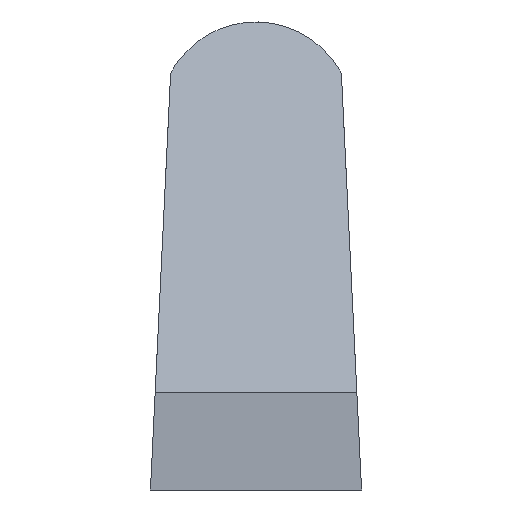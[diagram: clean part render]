
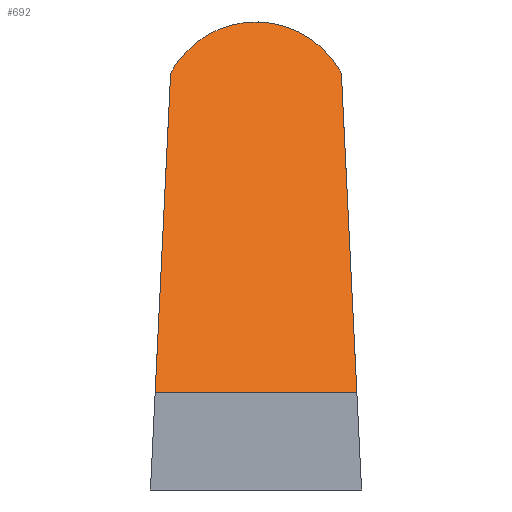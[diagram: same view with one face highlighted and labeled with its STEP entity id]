
A CAD part, left-side view. The second image highlights one B-rep face of the part: STEP entity #692.
In plain terms, the highlighted planar face has unit normal (-0.852, 0, 0.523).
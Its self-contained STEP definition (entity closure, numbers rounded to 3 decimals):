
#34 = CARTESIAN_POINT ( 'NONE',  ( -63., -9.315, 9. ) ) ;
#66 = CARTESIAN_POINT ( 'NONE',  ( -44.907, 7.887, 38.5 ) ) ;
#77 = VERTEX_POINT ( 'NONE', #66 ) ;
#93 = LINE ( 'NONE', #761, #260 ) ;
#135 = CARTESIAN_POINT ( 'NONE',  ( -44.907, -7.887, 38.5 ) ) ;
#172 =( BOUNDED_CURVE ( )  B_SPLINE_CURVE ( 3, ( #744, #198, #326, #202 ),
 .UNSPECIFIED., .F., .T. ) 
 B_SPLINE_CURVE_WITH_KNOTS ( ( 4, 4 ),
 ( 5.202, 7.364 ),
 .UNSPECIFIED. ) 
 CURVE ( )  GEOMETRIC_REPRESENTATION_ITEM ( )  RATIONAL_B_SPLINE_CURVE ( ( 1., 0.647, 0.647, 1. ) ) 
 REPRESENTATION_ITEM ( '' )  );
#175 = DIRECTION ( 'NONE',  ( 0., -1., 0. ) ) ;
#198 = CARTESIAN_POINT ( 'NONE',  ( -40.508, -4.064, 45.672 ) ) ;
#201 = EDGE_CURVE ( 'NONE', #674, #77, #172, .T. ) ;
#202 = CARTESIAN_POINT ( 'NONE',  ( -44.907, 7.887, 38.5 ) ) ;
#203 = VECTOR ( 'NONE', #175, 1000. ) ;
#246 = VERTEX_POINT ( 'NONE', #34 ) ;
#257 = ORIENTED_EDGE ( 'NONE', *, *, #767, .T. ) ;
#260 = VECTOR ( 'NONE', #701, 1000. ) ;
#270 = ORIENTED_EDGE ( 'NONE', *, *, #292, .F. ) ;
#292 = EDGE_CURVE ( 'NONE', #674, #246, #769, .T. ) ;
#295 = CARTESIAN_POINT ( 'NONE',  ( -63., 36.75, 9. ) ) ;
#323 = VERTEX_POINT ( 'NONE', #400 ) ;
#326 = CARTESIAN_POINT ( 'NONE',  ( -40.508, 4.064, 45.672 ) ) ;
#355 = EDGE_CURVE ( 'NONE', #323, #246, #781, .T. ) ;
#376 = CARTESIAN_POINT ( 'NONE',  ( -49.79, 36.75, 30.538 ) ) ;
#400 = CARTESIAN_POINT ( 'NONE',  ( -63., 9.315, 9. ) ) ;
#430 = DIRECTION ( 'NONE',  ( 0.852, 0., -0.523 ) ) ;
#450 = EDGE_LOOP ( 'NONE', ( #270, #593, #257, #526 ) ) ;
#526 = ORIENTED_EDGE ( 'NONE', *, *, #355, .T. ) ;
#560 = DIRECTION ( 'NONE',  ( -0.523, 0., -0.852 ) ) ;
#582 = CARTESIAN_POINT ( 'NONE',  ( -48.821, -8.196, 32.118 ) ) ;
#593 = ORIENTED_EDGE ( 'NONE', *, *, #201, .T. ) ;
#674 = VERTEX_POINT ( 'NONE', #135 ) ;
#677 = PLANE ( 'NONE',  #771 ) ;
#692 = ADVANCED_FACE ( 'NONE', ( #738 ), #677, .F. ) ;
#701 = DIRECTION ( 'NONE',  ( -0.522, 0.041, -0.852 ) ) ;
#723 = VECTOR ( 'NONE', #764, 1000. ) ;
#738 = FACE_OUTER_BOUND ( 'NONE', #450, .T. ) ;
#744 = CARTESIAN_POINT ( 'NONE',  ( -44.907, -7.887, 38.5 ) ) ;
#761 = CARTESIAN_POINT ( 'NONE',  ( -50.403, 8.321, 29.538 ) ) ;
#764 = DIRECTION ( 'NONE',  ( -0.522, -0.041, -0.852 ) ) ;
#767 = EDGE_CURVE ( 'NONE', #77, #323, #93, .T. ) ;
#769 = LINE ( 'NONE', #582, #723 ) ;
#771 = AXIS2_PLACEMENT_3D ( 'NONE', #376, #430, #560 ) ;
#781 = LINE ( 'NONE', #295, #203 ) ;
